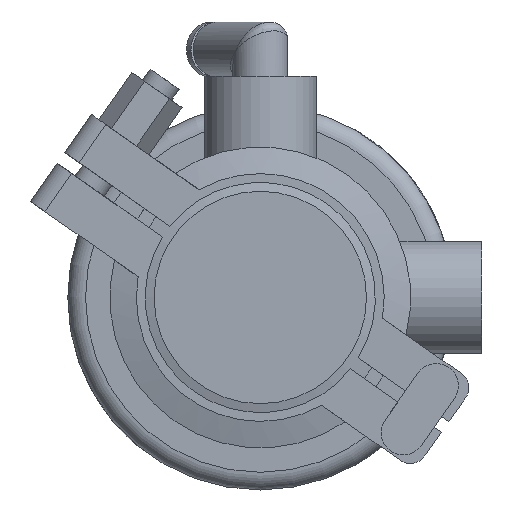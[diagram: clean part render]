
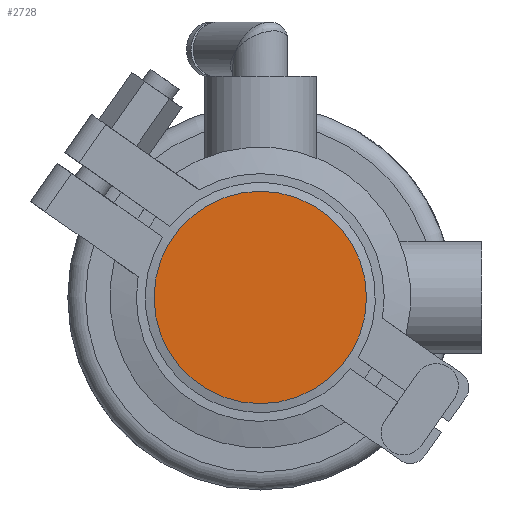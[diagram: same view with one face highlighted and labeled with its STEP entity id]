
A CAD part, front view. The second image highlights one B-rep face of the part: STEP entity #2728.
In plain terms, the highlighted planar face has unit normal (0, -1, 0).
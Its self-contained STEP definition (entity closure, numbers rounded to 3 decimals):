
#50 = EDGE_LOOP ( 'NONE', ( #4192 ) ) ;
#694 = DIRECTION ( 'NONE',  ( 0., 0., -1. ) ) ;
#805 = PLANE ( 'NONE',  #8239 ) ;
#1653 = VERTEX_POINT ( 'NONE', #10861 ) ;
#1681 = DIRECTION ( 'NONE',  ( 0., 0., 1. ) ) ;
#2233 = FACE_OUTER_BOUND ( 'NONE', #50, .T. ) ;
#2728 = ADVANCED_FACE ( 'NONE', ( #2233 ), #805, .T. ) ;
#4192 = ORIENTED_EDGE ( 'NONE', *, *, #4293, .F. ) ;
#4293 = EDGE_CURVE ( 'NONE', #1653, #1653, #19171, .T. ) ;
#6854 = AXIS2_PLACEMENT_3D ( 'NONE', #18691, #12807, #1681 ) ;
#8239 = AXIS2_PLACEMENT_3D ( 'NONE', #10098, #16181, #694 ) ;
#10098 = CARTESIAN_POINT ( 'NONE',  ( -24., 0., 0. ) ) ;
#10861 = CARTESIAN_POINT ( 'NONE',  ( 0., 0., 24. ) ) ;
#12807 = DIRECTION ( 'NONE',  ( 0., 1., 0. ) ) ;
#16181 = DIRECTION ( 'NONE',  ( 0., -1., 0. ) ) ;
#18691 = CARTESIAN_POINT ( 'NONE',  ( 0., 0., 0. ) ) ;
#19171 = CIRCLE ( 'NONE', #6854, 24. ) ;
